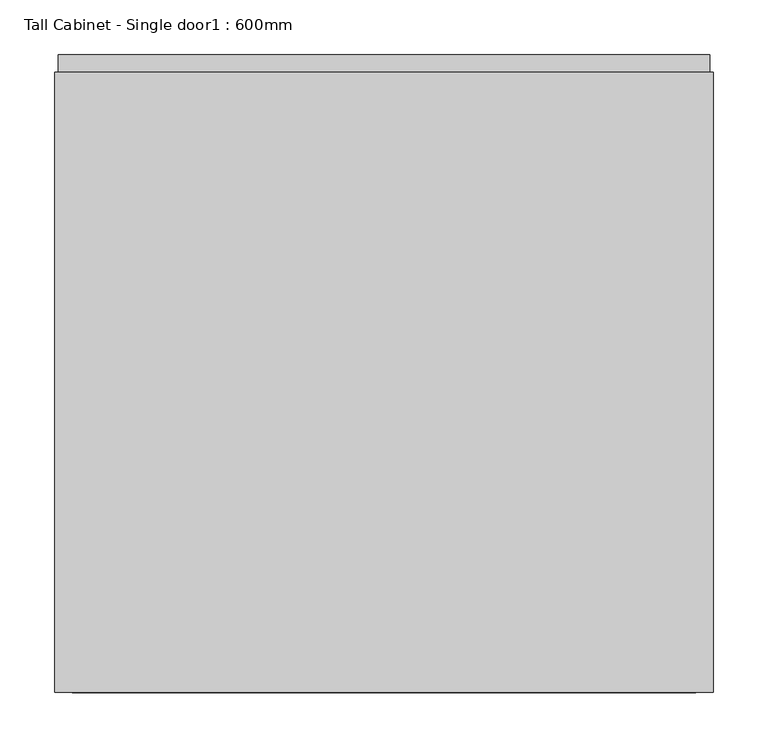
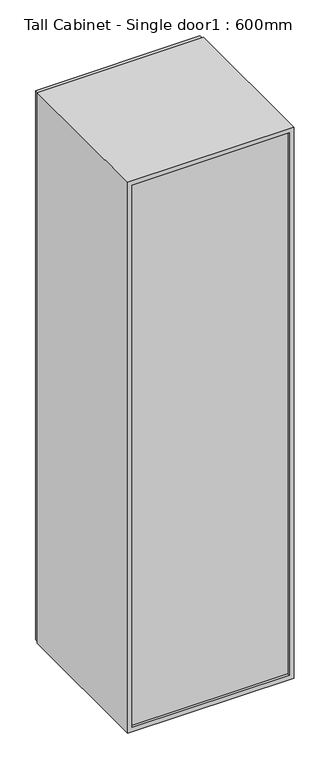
"""IFC4 building model written with IfcOpenShell, lengths in millimetres: furniture geometry, Tall Cabinet - Single door1 : 600mm."""

import ifcopenshell
import ifcopenshell.guid

model = None  # the IFC model being written
_history = None  # IfcOwnerHistory: only IFC2X3 demands one
_inside = {}  # id of a spatial element -> (the spatial element, [elements in it])
_under = {}  # id of a project, library or spatial element -> (it, [spatial elements below it])
_declared = {}  # id of a project -> (the project, [libraries it declares])
_typed = {}  # id of a type object -> (the type object, [elements of that type])
_made_of = {}  # id of a material, layer set ... -> (it, [elements and type objects made of it])


def new_model(schema):
    """Start an empty IFC model of exactly this schema.

    Asked for "IFC4X3", IfcOpenShell would pick the latest addendum, in which some entities
    have other attributes; the version numbers below select the first issue.
    IFC2X3 requires an IfcOwnerHistory on every rooted entity: one is made here for all.
    """
    global model, _history
    if schema == "IFC4X3":
        model = ifcopenshell.file(schema_version=(4, 3, 0, 0))
    else:
        model = ifcopenshell.file(schema=schema)
    _inside.clear()
    _under.clear()
    _declared.clear()
    _typed.clear()
    _made_of.clear()
    _history = None
    if model.schema == "IFC2X3":
        org = make("IfcOrganization", Name="unknown")
        user = make(
            "IfcPersonAndOrganization",
            ThePerson=make("IfcPerson", FamilyName="unknown"),
            TheOrganization=org,
        )
        app = make(
            "IfcApplication",
            ApplicationDeveloper=org,
            Version="unknown",
            ApplicationFullName="unknown",
            ApplicationIdentifier="unknown",
        )
        _history = make(
            "IfcOwnerHistory",
            OwningUser=user,
            OwningApplication=app,
            ChangeAction="ADDED",
            CreationDate=0,
        )
    return model


def make(cls, **values):
    """One entity of the class cls with the attributes given. An attribute that is None is left unset."""
    return model.create_entity(
        cls, **{name: value for name, value in values.items() if value is not None}
    )


def rooted(cls, **values):
    """An entity with a GlobalId (a new one), such as an element, a storey or a relation."""
    return make(cls, GlobalId=ifcopenshell.guid.new(), OwnerHistory=_history, **values)


def si_unit(unit_type, name, prefix=None):
    """IfcSIUnit, for example si_unit("LENGTHUNIT", "METRE", prefix="MILLI")."""
    return make("IfcSIUnit", UnitType=unit_type, Prefix=prefix, Name=name)


def assignment(units):
    """IfcUnitAssignment: the units of a project."""
    return None if units is None else make("IfcUnitAssignment", Units=units)


def point(xyz):
    """IfcCartesianPoint."""
    return None if xyz is None else make("IfcCartesianPoint", Coordinates=xyz)


def direction(xyz):
    """IfcDirection."""
    return None if xyz is None else make("IfcDirection", DirectionRatios=xyz)


def frame(location, z_axis=None, x_axis=None):
    """IfcAxis2Placement3D, a coordinate frame: its origin and axes. An axis left out is left unset."""
    return make(
        "IfcAxis2Placement3D",
        Location=point(location),
        Axis=direction(z_axis),
        RefDirection=direction(x_axis),
    )


def origin():
    """The frame at (0, 0, 0) with its axes left unset."""
    return frame((0.0, 0.0, 0.0))


def place(relative_to, where):
    """IfcLocalPlacement: puts the frame where relative to a parent placement (None: the world)."""
    return make(
        "IfcLocalPlacement", PlacementRelTo=relative_to, RelativePlacement=where
    )


def context(
    kind, dimensions, precision=None, world=None, true_north=None, identifier=None
):
    """IfcGeometricRepresentationContext, for example the 3D "Model" context."""
    return make(
        "IfcGeometricRepresentationContext",
        ContextIdentifier=identifier,
        ContextType=kind,
        CoordinateSpaceDimension=dimensions,
        Precision=precision,
        WorldCoordinateSystem=world,
        TrueNorth=true_north,
    )


def project(units=None, contexts=None):
    """IfcProject with its units and contexts."""
    return rooted(
        "IfcProject",
        Name="project",
        RepresentationContexts=contexts,
        UnitsInContext=assignment(units),
    )


def spatial(cls, under=None, at=None, **own):
    """A site, building, storey or space (cls), placed at a placement, below another one or the project."""
    s = rooted(cls, ObjectPlacement=at, **own)
    if under is not None:
        _under.setdefault(under.id(), (under, []))[1].append(s)
    return s


def polyline(points):
    """IfcPolyline through the points."""
    return make("IfcPolyline", Points=[point(p) for p in points])


def outline(outer, holes=None, kind="AREA"):
    """IfcArbitraryClosedProfileDef: a profile drawn as a closed curve; with holes, ...WithVoids."""
    if holes is None:
        return make("IfcArbitraryClosedProfileDef", ProfileType=kind, OuterCurve=outer)
    return make(
        "IfcArbitraryProfileDefWithVoids",
        ProfileType=kind,
        OuterCurve=outer,
        InnerCurves=holes,
    )


def extrude(swept, where, along, depth):
    """IfcExtrudedAreaSolid: the profile swept, set in the frame where, extruded along a direction by depth."""
    return make(
        "IfcExtrudedAreaSolid",
        SweptArea=swept,
        Position=where,
        ExtrudedDirection=direction(along),
        Depth=depth,
    )


def shape(context_of_items, identifier, shape_type, items):
    """IfcShapeRepresentation: the items that make up one representation, for example the "Body"."""
    return make(
        "IfcShapeRepresentation",
        ContextOfItems=context_of_items,
        RepresentationIdentifier=identifier,
        RepresentationType=shape_type,
        Items=items,
    )


def source(mapping_origin, context_of_items, identifier, shape_type, items):
    """IfcRepresentationMap: a shape defined once, which mapped items show again and again."""
    return make(
        "IfcRepresentationMap",
        MappingOrigin=mapping_origin,
        MappedRepresentation=shape(context_of_items, identifier, shape_type, items),
    )


def transform(
    local_origin,
    x_axis=None,
    y_axis=None,
    z_axis=None,
    scale=None,
    scale2=None,
    scale3=None,
    uniform=True,
):
    """IfcCartesianTransformationOperator3D, or its non-uniform kind. x_axis, y_axis, z_axis: its Axis1, 2, 3."""
    if uniform:
        return make(
            "IfcCartesianTransformationOperator3D",
            Axis1=direction(x_axis),
            Axis2=direction(y_axis),
            LocalOrigin=point(local_origin),
            Scale=scale,
            Axis3=direction(z_axis),
        )
    return make(
        "IfcCartesianTransformationOperator3DnonUniform",
        Axis1=direction(x_axis),
        Axis2=direction(y_axis),
        LocalOrigin=point(local_origin),
        Scale=scale,
        Axis3=direction(z_axis),
        Scale2=scale2,
        Scale3=scale3,
    )


def mapped(mapping_source, mapping_target):
    """IfcMappedItem: shows the shape of a source again, moved by a transform."""
    return make(
        "IfcMappedItem", MappingSource=mapping_source, MappingTarget=mapping_target
    )


def made_of(thing, what):
    """Note that an element or type object is made of a material, layer set ...; save() writes the relation."""
    if what is not None:
        _made_of.setdefault(what.id(), (what, []))[1].append(thing)
    return thing


def element(
    cls,
    number,
    at=None,
    inside=None,
    cuts=None,
    type_object=None,
    material=None,
    context=None,
    identifier="Body",
    shape_type=None,
    held_by="IfcProductDefinitionShape",
    body=None,
    shapes=None,
    **own,
):
    """One element of the class cls, such as IfcWall. Its Tag is "e" and its number.

    at: its placement. inside: the storey or other place that contains it. cuts: it is an
    opening in that element (IfcRelVoidsElement). A single representation is given by context,
    identifier, shape_type and body (its items); several are given by shapes. held_by: the class
    of the entity that holds the representations. save() writes the other relations.
    """
    e = rooted(cls, Tag="e%d" % number, ObjectPlacement=at, **own)
    if body is not None:
        shapes = [shape(context, identifier, shape_type, body)]
    if shapes is not None:
        e.Representation = make(held_by, Representations=shapes)
    if inside is not None:
        _inside.setdefault(inside.id(), (inside, []))[1].append(e)
    if cuts is not None:
        rooted(
            "IfcRelVoidsElement", RelatingBuildingElement=cuts, RelatedOpeningElement=e
        )
    if type_object is not None:
        _typed.setdefault(type_object.id(), (type_object, []))[1].append(e)
    return made_of(e, material)


def aggregate(whole, parts):
    """IfcRelAggregates: a whole, such as a stair, and the parts it consists of."""
    return rooted("IfcRelAggregates", RelatingObject=whole, RelatedObjects=parts)


def save(model, path):
    """Write the relations noted so far, then the file.

    IfcRelAggregates (storeys below a building ...), IfcRelContainedInSpatialStructure (elements
    in a storey), IfcRelDefinesByType, IfcRelAssociatesMaterial and IfcRelDeclares: one each for
    every whole, place, type object, material and project.
    """
    for whole, parts in _under.values():
        aggregate(whole, parts)
    for where, things in _inside.values():
        rooted(
            "IfcRelContainedInSpatialStructure",
            RelatedElements=things,
            RelatingStructure=where,
        )
    for kind, things in _typed.values():
        rooted("IfcRelDefinesByType", RelatedObjects=things, RelatingType=kind)
    for what, things in _made_of.values():
        rooted("IfcRelAssociatesMaterial", RelatedObjects=things, RelatingMaterial=what)
    for by, libraries in _declared.values():
        rooted("IfcRelDeclares", RelatingContext=by, RelatedDefinitions=libraries)
    model.write(path)


def tall_cabinet_single_door1_600mm_31f762dd(model_context):
    return source(origin(), model_context, "Body", "SweptSolid", [
        extrude(outline(polyline([(341.7003264, 581.0), (341.7003264, 565.0), (-252.2996736, 565.0), (-252.2996736, 581.0), (341.7003264, 581.0)])), frame((0.0, 0.0, 103.0), z_axis=(0.0, 0.0, 1.0), x_axis=(1.0, 0.0, 0.0)), (0.0, 0.0, 1.0), 2094.0),
        extrude(outline(polyline([(328.7003264, 10.0), (-239.2996736, 10.0), (-239.2996736, 16.0), (328.7003264, 16.0), (328.7003264, 10.0)])), frame((0.0, 0.0, 116.0), z_axis=(0.0, 0.0, 1.0), x_axis=(1.0, 0.0, 0.0)), (0.0, 0.0, 1.0), 2076.0),
        extrude(outline(polyline([(2200.0, 344.7003264), (2200.0, -255.2996736), (100.0, -255.2996736), (100.0, 344.7003264), (2200.0, 344.7003264)]), holes=[polyline([(2184.0, 328.7003264), (116.0, 328.7003264), (116.0, -239.2996736), (2184.0, -239.2996736), (2184.0, 328.7003264)])]), frame((0.0, 0.0, 0.0), z_axis=(0.0, 1.0, 0.0), x_axis=(0.0, 0.0, 1.0)), (0.0, 0.0, 1.0), 565.0),
    ])


if __name__ == "__main__":
    model = new_model("IFC4")
    model_context = context("Model", 3, world=origin())
    ifc_project = project(units=[si_unit("LENGTHUNIT", "METRE", prefix="MILLI")], contexts=[model_context])
    site = spatial("IfcSite", under=ifc_project)
    building = spatial("IfcBuilding", under=site)
    placement = place(None, origin())
    tall_cabinet_single_door1_600mm_shape = tall_cabinet_single_door1_600mm_31f762dd(model_context)
    element("IfcFurniture", 1, ObjectType="Tall Cabinet - Single door1 : 600mm", at=placement, inside=building, context=model_context, shape_type="MappedRepresentation", body=[
        mapped(tall_cabinet_single_door1_600mm_shape, transform((0.0, 0.0, 0.0), x_axis=(1.0, 0.0, 0.0), y_axis=(0.0, 1.0, 0.0), z_axis=(0.0, 0.0, 1.0))),
    ])
    save(model, "model.ifc")
